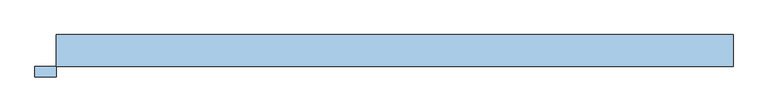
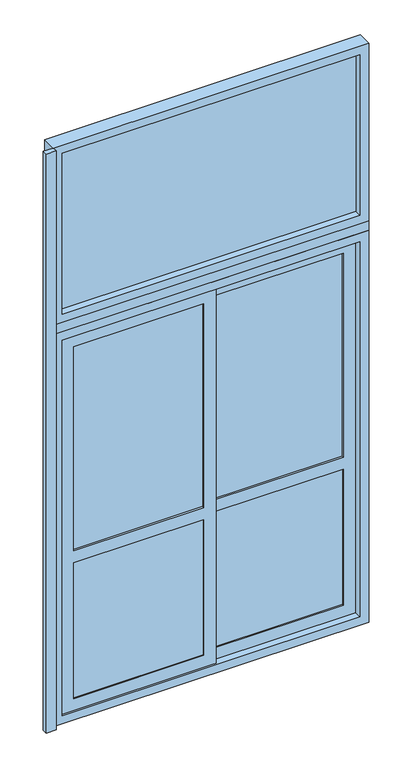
"""IFC4 building model written with IfcOpenShell, lengths in millimetres: window geometry, A9 Ventana_Corrediza_PC_2 hojas VF superior : A9 Ventana_Corrediza_PC_2 hojas 160x310 VF superior."""

from ifc_helpers import new_model, si_unit, frame, origin, origin_with_axes, place, context, project, spatial, polyline, outline, extrude, source, transform, mapped, element, save


def window_948eace7(model_context):
    return source(origin(), model_context, "Body", "SweptSolid", [
        extrude(outline(polyline([(3100.0, -800.0), (2150.0, -800.0), (2150.0, 800.0), (3100.0, 800.0), (3100.0, -800.0)]), holes=[polyline([(3055.0, -755.0), (3055.0, 755.0), (2195.0, 755.0), (2195.0, -755.0), (3055.0, -755.0)])]), frame((0.0, 12.5, 0.0), z_axis=(0.0, 1.0, 0.0), x_axis=(0.0, 0.0, 1.0)), (0.0, 0.0, 1.0), 75.0),
        extrude(outline(polyline([(755.0, 47.0), (-755.0, 47.0), (-755.0, 53.0), (755.0, 53.0), (755.0, 47.0)])), frame((0.0, 0.0, 2195.0), z_axis=(0.0, 0.0, 1.0), x_axis=(1.0, 0.0, 0.0)), (0.0, 0.0, 1.0), 860.0),
        extrude(outline(polyline([(-31.5, 28.0), (-692.0, 28.0), (-692.0, 44.0), (-31.5, 44.0), (-31.5, 28.0)])), frame((0.0, 0.0, 108.0), z_axis=(0.0, 0.0, 1.0), x_axis=(1.0, 0.0, 0.0)), (0.0, 0.0, 1.0), 728.0),
        extrude(outline(polyline([(692.0, 56.0), (31.5, 56.0), (31.5, 72.0), (692.0, 72.0), (692.0, 56.0)])), frame((0.0, 0.0, 108.0), z_axis=(0.0, 0.0, 1.0), x_axis=(1.0, 0.0, 0.0)), (0.0, 0.0, 1.0), 728.0),
        extrude(outline(polyline([(-31.5, 31.5769719), (-692.0, 31.5769719), (-692.0, 40.4230281), (-31.5, 40.4230281), (-31.5, 31.5769719)])), frame((0.0, 0.0, 900.0), z_axis=(0.0, 0.0, 1.0), x_axis=(1.0, 0.0, 0.0)), (0.0, 0.0, 1.0), 1092.0),
        extrude(outline(polyline([(692.0, 59.5769719), (31.5, 59.5769719), (31.5, 68.4230281), (692.0, 68.4230281), (692.0, 59.5769719)])), frame((0.0, 0.0, 900.0), z_axis=(0.0, 0.0, 1.0), x_axis=(1.0, 0.0, 0.0)), (0.0, 0.0, 1.0), 1092.0),
        extrude(outline(polyline([(45.0, -755.0), (45.0, 31.5), (2055.0, 31.5), (2055.0, -755.0), (45.0, -755.0)]), holes=[polyline([(900.0, -692.0), (1992.0, -692.0), (1992.0, -31.5), (900.0, -31.5), (900.0, -692.0)]), polyline([(108.0, -692.0), (836.0, -692.0), (836.0, -31.5), (108.0, -31.5), (108.0, -692.0)])]), frame((0.0, 22.0, 0.0), z_axis=(0.0, 1.0, 0.0), x_axis=(0.0, 0.0, 1.0)), (0.0, 0.0, 1.0), 28.0),
        extrude(outline(polyline([(2055.0, 755.0), (2055.0, -31.5), (45.0, -31.5), (45.0, 755.0), (2055.0, 755.0)]), holes=[polyline([(1992.0, 31.5), (1992.0, 692.0), (900.0, 692.0), (900.0, 31.5), (1992.0, 31.5)]), polyline([(836.0, 31.5), (836.0, 692.0), (108.0, 692.0), (108.0, 31.5), (836.0, 31.5)])]), frame((0.0, 50.0, 0.0), z_axis=(0.0, 1.0, 0.0), x_axis=(0.0, 0.0, 1.0)), (0.0, 0.0, 1.0), 28.0),
        extrude(outline(polyline([(2100.0, -800.0), (0.0, -800.0), (0.0, 800.0), (2100.0, 800.0), (2100.0, -800.0)]), holes=[polyline([(2055.0, -755.0), (2055.0, 755.0), (45.0, 755.0), (45.0, -755.0), (2055.0, -755.0)])]), frame((0.0, 12.5, 0.0), z_axis=(0.0, 1.0, 0.0), x_axis=(0.0, 0.0, 1.0)), (0.0, 0.0, 1.0), 75.0),
        extrude(outline(polyline([(800.0, 12.5), (-800.0, 12.5), (-800.0, 87.5), (800.0, 87.5), (800.0, 12.5)])), frame((0.0, 0.0, 2100.0), z_axis=(0.0, 0.0, 1.0), x_axis=(1.0, 0.0, 0.0)), (0.0, 0.0, 1.0), 50.0),
        extrude(outline(polyline([(-800.0, -12.5), (-850.0, -12.5), (-850.0, 12.5), (-800.0, 12.5), (-800.0, -12.5)])), origin_with_axes(), (0.0, 0.0, 1.0), 3100.0),
    ])


if __name__ == "__main__":
    model = new_model("IFC4")
    model_context = context("Model", 3, world=origin())
    ifc_project = project(units=[si_unit("LENGTHUNIT", "METRE", prefix="MILLI")], contexts=[model_context])
    site = spatial("IfcSite", under=ifc_project)
    building = spatial("IfcBuilding", under=site)
    placement = place(None, origin())
    window_shape = window_948eace7(model_context)
    element("IfcWindow", 1, ObjectType="A9 Ventana_Corrediza_PC_2 hojas VF superior : A9 Ventana_Corrediza_PC_2 hojas 160x310 VF superior", at=placement, inside=building, context=model_context, shape_type="MappedRepresentation", body=[
        mapped(window_shape, transform((0.0, 0.0, 0.0), x_axis=(1.0, 0.0, 0.0), y_axis=(0.0, 1.0, 0.0), z_axis=(0.0, 0.0, 1.0))),
    ])
    save(model, "model.ifc")
